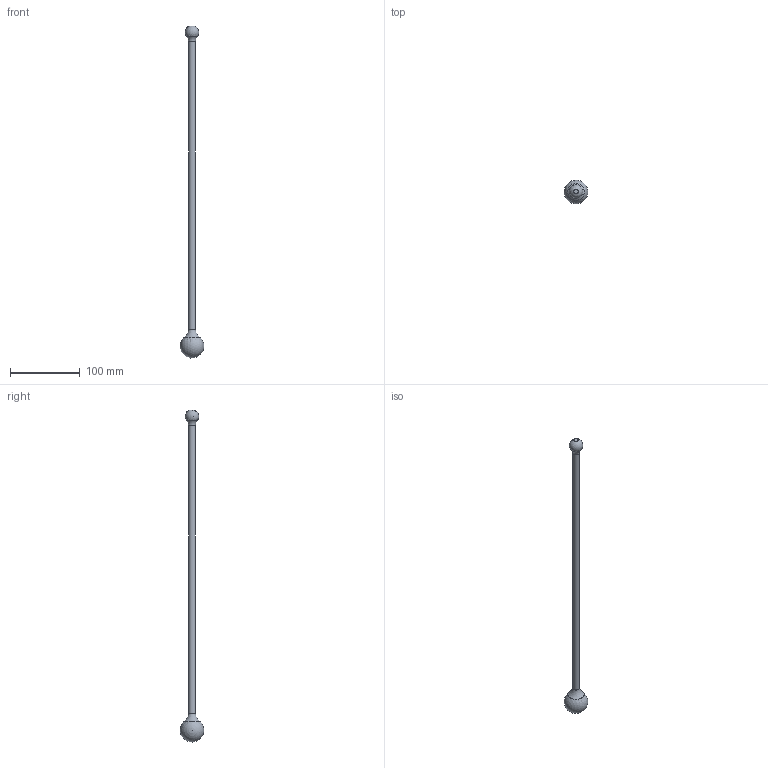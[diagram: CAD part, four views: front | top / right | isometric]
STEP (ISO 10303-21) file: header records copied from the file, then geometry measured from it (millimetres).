
FILE_DESCRIPTION(/* description */ (''),/* implementation_level */ '2;1');
FILE_NAME(/* name */ 'C:\Users\STEFANO\Desktop\3D SEM\1704-23 - STORM SOSPENSIONE LARGE F.E\SEM.000029.stp',/* time_stamp */ '2019-09-16T09:39:00+02:00',/* author */ ('STEFANO'),/* organization */ (''),/* preprocessor_version */ 'ST-DEVELOPER v17',/* originating_system */ 'Autodesk Inventor 2019',/* authorisation */ '');
FILE_SCHEMA (('AUTOMOTIVE_DESIGN { 1 0 10303 214 3 1 1 }'));
Length unit declared in the file: millimetre
Products named in the file (5): 16492_ASSY.04 VERS.BARTOLI 2_TOP; 16492_065.01; 16492_049.02; 16492_048.01; 16492_050.01
Assembly tree (4 placements, depth 2):
  16492_ASSY.04 VERS.BARTOLI 2_TOP
    16492_065.01
    16492_049.02
    16492_048.01
    16492_050.01
Bounding box: 34 x 33.75 x 476.22 mm (x, y, z)
Volume: 58422.5 mm3; surface area: 19220.9 mm2
Topology: 4 solids, 4 shells, 13 faces, 31 edges, 23 vertices
Faces by surface type: plane 7, cylinder 2, sphere 2, torus 2
Full cylindrical faces by diameter (mm): 10 x1, 23.6 x1
Entity records: 565 total; most frequent: DIRECTION 96, CARTESIAN_POINT 72, ORIENTED_EDGE 54, AXIS2_PLACEMENT_3D 47, EDGE_CURVE 27, CIRCLE 25, VERTEX_POINT 23, EDGE_LOOP 14
